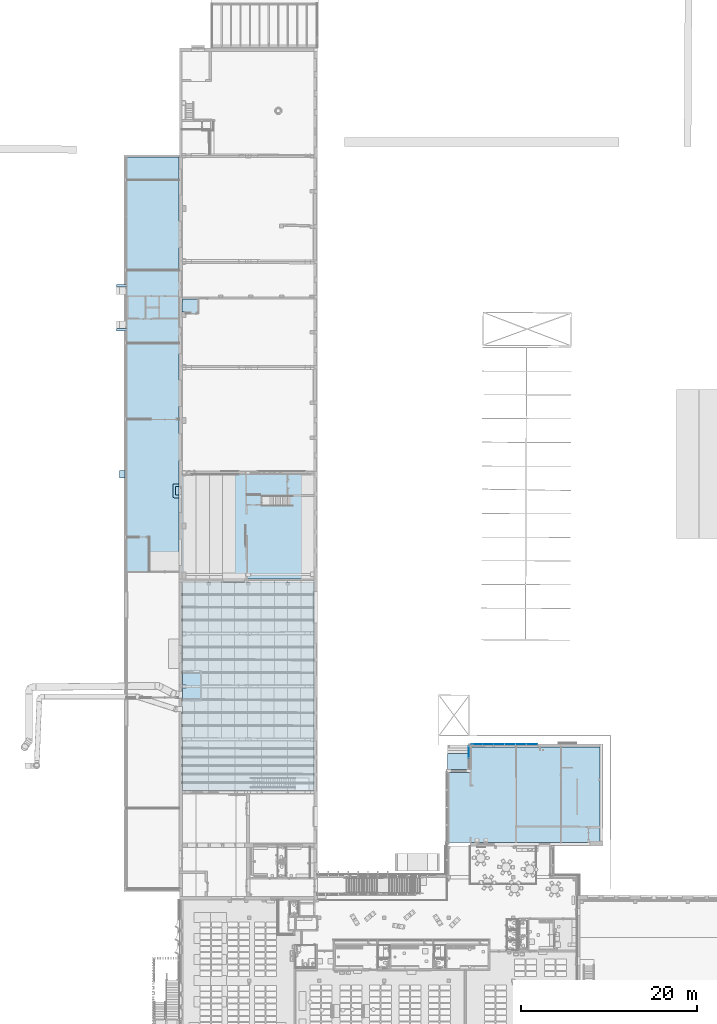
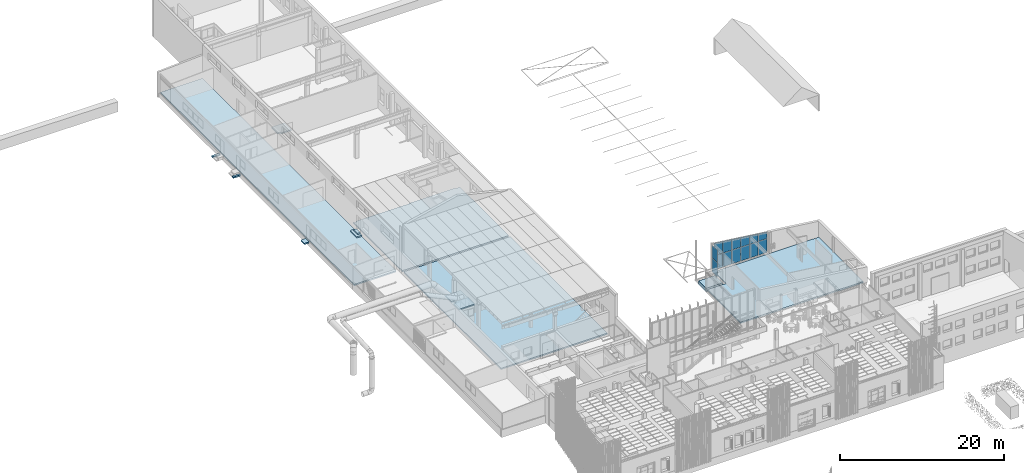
# One storey, part 79 of 301: 14 plates, 12 slabs, 2 elements without a shape of their own.
"""IFC2X3 building model written with IfcOpenShell, lengths in millimetres."""

from ifc_helpers import new_model, entity, si_unit, converted_unit, derived_unit, money_unit, direction, frame, origin_with_axes, place, context, subcontext, project, spatial, faceted_brep, material, type_object, element, aggregate, save


model = new_model("IFC2X3")

# Units and contexts
model_context = context("Model", 3, precision=0.01, world=origin_with_axes(), true_north=direction((0.0, 1.0)))
body_context = subcontext(model_context, "Body", "Model", "MODEL_VIEW")
ifc_project = project(units=[si_unit("LENGTHUNIT", "METRE", prefix="MILLI"), si_unit("AREAUNIT", "SQUARE_METRE"), si_unit("VOLUMEUNIT", "CUBIC_METRE"), converted_unit("PLANEANGLEUNIT", "DEGREE", entity("IfcPlaneAngleMeasure", 0.0174532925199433), si_unit("PLANEANGLEUNIT", "RADIAN"), dimensions=[0, 0, 0, 0, 0, 0, 0]), money_unit("EUR"), converted_unit("TIMEUNIT", "Year", entity("IfcTimeMeasure", 31557600.0), si_unit("TIMEUNIT", "SECOND"), dimensions=[0, 0, 1, 0, 0, 0, 0]), si_unit("MASSUNIT", "GRAM", prefix="KILO"), si_unit("THERMODYNAMICTEMPERATUREUNIT", "DEGREE_CELSIUS"), si_unit("LUMINOUSINTENSITYUNIT", "LUMEN"), si_unit("ENERGYUNIT", "JOULE", prefix="MEGA"), derived_unit("THERMALCONDUCTANCEUNIT", [(si_unit("POWERUNIT", "WATT"), 1), (si_unit("LENGTHUNIT", "METRE"), -1), (si_unit("THERMODYNAMICTEMPERATUREUNIT", "KELVIN"), -1)]), derived_unit("SPECIFICHEATCAPACITYUNIT", [(si_unit("ENERGYUNIT", "JOULE"), 1), (si_unit("MASSUNIT", "GRAM", prefix="KILO"), -1), (si_unit("THERMODYNAMICTEMPERATUREUNIT", "KELVIN"), -1)]), derived_unit("MASSDENSITYUNIT", [(si_unit("MASSUNIT", "GRAM", prefix="KILO"), 1), (si_unit("VOLUMEUNIT", "CUBIC_METRE"), -1)])], contexts=[model_context])

# Site, building, storey
site_placement = place(None, frame((0.0, 0.0, 8650.0), z_axis=(0.0, 0.0, 1.0), x_axis=(1.0, 0.0, 0.0)))
site = spatial("IfcSite", under=ifc_project, at=site_placement, Name="43301:001:0844", CompositionType="ELEMENT")
building_placement = place(site_placement, origin_with_axes())
building = spatial("IfcBuilding", under=site, at=building_placement, Name="Kuressaare Ametikooli tuulikute mehaanikute õppekorpus", CompositionType="ELEMENT")
storey_placement = place(building_placement, origin_with_axes())
storey = spatial("IfcBuildingStorey", under=building, at=storey_placement, Name="1.korrus", CompositionType="ELEMENT", Elevation=0.0)

# Slabs
ifc_material_1 = material(Name="GENEERILINE - KONSTRUKTRIOON")
slab_type_1 = type_object("IfcSlabType", Name="GENEERILINE - KONSTRUKTRIOON 200", PredefinedType="NOTDEFINED")
slab_1_placement = place(storey_placement, frame((118494.5490393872, 32289.65865180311, 0.0), z_axis=(0.0, 0.0, 1.0), x_axis=(1.0, 0.0, 0.0)))
element("IfcSlab", 1, at=slab_1_placement, inside=storey, type_object=slab_type_1, material=ifc_material_1, PredefinedType="NOTDEFINED", context=body_context, shape_type="Brep", body=[
    faceted_brep([(154.4958508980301, 3.053650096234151, 0.0), (0.0, 0.0, 0.0), (0.0, 0.0, -199.9999999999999), (154.4958508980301, 3.053650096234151, -199.9999999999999), (2624.418669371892, 8029.126284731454, 0.0), (0.0, 8029.126284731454, 0.0), (154.4958508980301, 19.16859212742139, 0.0), (17275.90571387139, 19.16859212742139, 0.0), (17275.90571387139, 10914.48736093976, 0.0), (2624.418669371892, 10914.48736093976, 0.0), (0.0, 8029.126284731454, -199.9999999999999), (154.4958508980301, 19.16859212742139, -199.9999999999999), (2624.418669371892, 8029.126284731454, -199.9999999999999), (2624.418669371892, 10914.48736093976, -199.9999999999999), (17275.90571387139, 10914.48736093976, -199.9999999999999), (17275.90571387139, 19.16859212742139, -199.9999999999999)], [[[0, 1, 2, 3]], [[4, 5, 1, 0, 6, 7, 8, 9]], [[1, 5, 10, 2]], [[11, 3, 2, 10, 12, 13, 14, 15]], [[6, 0, 3, 11]], [[5, 4, 12, 10]], [[7, 6, 11, 15]], [[8, 7, 15, 14]], [[9, 8, 14, 13]], [[4, 9, 13, 12]]]),
])
slab_2_placement = place(storey_placement, frame((81991.88862698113, 63168.71535974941, -329.9999826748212), z_axis=(0.0, 0.0, 1.0), x_axis=(1.0, 0.0, 0.0)))
element("IfcSlab", 2, at=slab_2_placement, inside=storey, type_object=slab_type_1, material=ifc_material_1, PredefinedType="NOTDEFINED", context=body_context, shape_type="Brep", body=[
    faceted_brep([(0.0, 0.0, 0.0), (0.0, 0.0, -200.0), (5906.86781985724, 0.0, -200.0), (5906.86781985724, 0.0, 0.0), (0.3106144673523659, 47150.27976489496, 0.0), (0.3106144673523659, 47150.27976489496, -200.0), (5906.86781985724, 47150.23454581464, -200.0), (5906.86781985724, 47150.23454581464, 0.0)], [[[0, 1, 2, 3]], [[4, 5, 1, 0]], [[2, 1, 5, 6]], [[3, 2, 6, 7]], [[4, 0, 3, 7]], [[7, 6, 5, 4]]]),
])
slab_3_placement = place(storey_placement, frame((88258.75644683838, 61938.34411621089, 130.0), z_axis=(0.0, 0.0, 1.0), x_axis=(1.0, 0.0, 0.0)))
element("IfcSlab", 3, at=slab_3_placement, inside=storey, type_object=slab_type_1, material=ifc_material_1, PredefinedType="NOTDEFINED", context=body_context, shape_type="Brep", body=[
    faceted_brep([(0.0, -23692.57245132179, 0.0), (0.0, 0.0, 0.0), (0.0, 0.0, -199.9999999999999), (0.0, -23692.57245132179, -199.9999999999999), (14968.75576019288, -23692.57245132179, 0.0), (14968.75576019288, 0.0, 0.0), (14968.75576019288, 0.0, -199.9999999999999), (14968.75576019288, -23692.57245132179, -199.9999999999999)], [[[0, 1, 2, 3]], [[4, 5, 1, 0]], [[1, 5, 6, 2]], [[7, 3, 2, 6]], [[4, 0, 3, 7]], [[5, 4, 7, 6]]]),
])
slab_4_placement = place(storey_placement, frame((88256.83241099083, 74249.57800842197, 44.94862960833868), z_axis=(0.0, 0.0, 1.0), x_axis=(1.0, 0.0, 0.0)))
element("IfcSlab", 4, at=slab_4_placement, inside=storey, type_object=slab_type_1, material=ifc_material_1, PredefinedType="NOTDEFINED", context=body_context, shape_type="Brep", body=[
    faceted_brep([(7879.182006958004, -44.38538867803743, -200.0000000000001), (7732.86944716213, -43.5611736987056, -200.0000000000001), (7732.86944716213, -43.5611736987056, 0.0), (7879.182006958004, -44.38538867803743, 0.0), (7232.86944716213, -66.75190352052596, -200.0000000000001), (7732.86944716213, -66.75190352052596, -200.0000000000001), (7879.182006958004, 45.61461132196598, -200.0000000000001), (14270.67978226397, 45.61461132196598, -200.0000000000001), (14270.67978226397, -64.38547086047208, -200.0000000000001), (14970.67979604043, -64.38547086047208, -200.0000000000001), (14970.67979604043, -11931.276093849, -200.0000000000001), (1.923508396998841, -11931.276093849, -200.0000000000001), (0.0, 0.0, -200.0000000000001), (2.028198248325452, -0.01142534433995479, -200.0000000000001), (2.028198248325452, -140.0057133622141, -200.0000000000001), (402.0281982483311, -140.0057133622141, -200.0000000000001), (402.0281982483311, -2.264724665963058, -200.0000000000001), (7232.86944716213, -40.74454954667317, -200.0000000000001), (7732.86944716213, -66.75190352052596, 0.0), (7232.86944716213, -66.75190352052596, 0.0), (7232.86944716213, -40.74454954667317, 0.0), (402.0281982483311, -2.264724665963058, 0.0), (402.0281982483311, -140.0057133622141, 0.0), (2.028198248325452, -140.0057133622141, 0.0), (2.028198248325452, -0.01142534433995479, 0.0), (0.0, 0.0, 0.0), (1.923508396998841, -11931.276093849, 0.0), (14970.67979604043, -11931.276093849, 0.0), (14970.67979604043, -64.38547086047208, 0.0), (14270.67978226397, -64.38547086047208, 0.0), (14270.67978226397, 45.61461132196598, 0.0), (7879.182006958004, 45.61461132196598, 0.0)], [[[0, 1, 2, 3]], [[4, 5, 1, 0, 6, 7, 8, 9, 10, 11, 12, 13, 14, 15, 16, 17]], [[5, 18, 2, 1]], [[18, 19, 20, 21, 22, 23, 24, 25, 26, 27, 28, 29, 30, 31, 3, 2]], [[3, 31, 6, 0]], [[4, 19, 18, 5]], [[31, 30, 7, 6]], [[8, 7, 30, 29]], [[8, 29, 28, 9]], [[10, 9, 28, 27]], [[27, 26, 11, 10]], [[26, 25, 12, 11]], [[25, 24, 13, 12]], [[14, 13, 24, 23]], [[14, 23, 22, 15]], [[15, 22, 21, 16]], [[21, 20, 17, 16]], [[4, 17, 20, 19]]]),
])
slab_5_placement = place(storey_placement, frame((80791.58456840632, 95533.95587858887, -543.0000000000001), z_axis=(0.0, 0.0, 1.0), x_axis=(1.0, 0.0, 0.0)))
element("IfcSlab", 5, at=slab_5_placement, inside=storey, type_object=slab_type_1, material=ifc_material_1, PredefinedType="NOTDEFINED", context=body_context, shape_type="Brep", body=[
    faceted_brep([(0.0, 0.0, 0.0), (0.0, 0.0, -199.9999999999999), (1100.5876276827, 0.0, -199.9999999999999), (1100.5876276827, 0.0, 0.0), (0.002002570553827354, 303.9837828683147, 0.0), (0.002002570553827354, 303.9837828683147, -199.9999999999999), (1100.5876276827, 303.9753570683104, -199.9999999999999), (1100.5876276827, 303.9753570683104, 0.0)], [[[0, 1, 2, 3]], [[4, 5, 1, 0]], [[2, 1, 5, 6]], [[3, 2, 6, 7]], [[4, 0, 3, 7]], [[7, 6, 5, 4]]]),
])
slab_6_placement = place(storey_placement, frame((80791.58456840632, 90829.1677255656, -543.0000000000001), z_axis=(0.0, 0.0, 1.0), x_axis=(1.0, 0.0, 0.0)))
element("IfcSlab", 6, at=slab_6_placement, inside=storey, type_object=slab_type_1, material=ifc_material_1, PredefinedType="NOTDEFINED", context=body_context, shape_type="Brep", body=[
    faceted_brep([(0.0, 0.0, 0.0), (0.0, 0.0, -199.9999999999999), (0.002002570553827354, -303.9837828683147, -199.9999999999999), (0.002002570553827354, -303.9837828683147, 0.0), (1100.5876276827, 0.0, 0.0), (1100.5876276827, 0.0, -199.9999999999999), (1100.5876276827, -303.9753570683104, -199.9999999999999), (1100.5876276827, -303.9753570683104, 0.0)], [[[0, 1, 2, 3]], [[4, 5, 1, 0]], [[2, 1, 5, 6]], [[3, 2, 6, 7]], [[4, 0, 3, 7]], [[7, 6, 5, 4]]]),
])
slab_7_placement = place(storey_placement, frame((81113.99645361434, 73790.08330329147, -350.0000000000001), z_axis=(0.0, 0.0, 1.0), x_axis=(1.0, 0.0, 0.0)))
element("IfcSlab", 7, at=slab_7_placement, inside=storey, type_object=slab_type_1, material=ifc_material_1, PredefinedType="NOTDEFINED", context=body_context, shape_type="Brep", body=[
    faceted_brep([(0.0, 0.0, 0.0), (0.0, 0.0, -200.0), (647.8921733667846, 0.0, -200.0), (647.8921733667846, 0.0, 0.0), (0.005669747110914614, 860.6494206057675, 0.0), (0.005669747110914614, 860.6494206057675, -200.0), (647.8921733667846, 860.6444605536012, -200.0), (647.8921733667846, 860.6444605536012, 0.0)], [[[0, 1, 2, 3]], [[4, 5, 1, 0]], [[2, 1, 5, 6]], [[3, 2, 6, 7]], [[4, 0, 3, 7]], [[7, 6, 5, 4]]]),
])

# Curtain wall, plates
curtain_wall_type = type_object("IfcCurtainWallType", Name="Curtain Wall Type", PredefinedType="NOTDEFINED")
curtain_wall_1_placement = place(storey_placement, frame((120847.1885681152, 42644.61724537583, 0.0), z_axis=(0.0, 0.0, 1.0), x_axis=(1.0, 0.0, 0.0)))
curtain_wall_1 = element("IfcCurtainWall", 8, at=curtain_wall_1_placement, inside=storey, type_object=curtain_wall_type)
ifc_material_2 = material(Name="Klaas")
plate_type_1 = type_object("IfcPlateType", Name="Main Panel 1265 x 95 x 20", PredefinedType="NOTDEFINED")
plate_1_placement = place(curtain_wall_1_placement, frame((0.0, 0.0, 1385.000027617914), z_axis=(0.0, 0.0, 1.0), x_axis=(0.0, 1.0, 0.0)))
plate_1 = element("IfcPlate", 9, at=plate_1_placement, type_object=plate_type_1, material=ifc_material_2, context=body_context, shape_type="Brep", body=[
    faceted_brep([(-645.0000092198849, -9.999999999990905, 735.0000084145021), (619.9999916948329, -9.999999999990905, 735.0000084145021), (619.9999916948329, 10.00000000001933, 735.0000084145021), (-645.0000092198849, 10.00000000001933, 735.0000084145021), (-645.0000092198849, -9.999999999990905, 640.0000221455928), (-645.0000092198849, -9.999999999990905, -1350.000019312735), (619.9999916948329, -9.999999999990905, -1350.000019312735), (619.9999916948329, -9.999999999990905, 640.0000221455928), (619.9999916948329, 10.00000000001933, 640.0000221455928), (619.9999916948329, 10.00000000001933, -1350.000019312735), (-645.0000092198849, 10.00000000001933, -1350.000019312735), (-645.0000092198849, 10.00000000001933, 640.0000221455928)], [[[0, 1, 2, 3]], [[0, 4, 5, 6, 7, 1]], [[1, 7, 8, 2]], [[3, 2, 8, 9, 10, 11]], [[4, 0, 3, 11]], [[5, 4, 11, 10]], [[6, 5, 10, 9]], [[7, 6, 9, 8]]]),
])
plate_type_2 = type_object("IfcPlateType", Name="Main Panel 1265 x 1875 x 20", PredefinedType="NOTDEFINED")
plate_2_placement = place(curtain_wall_1_placement, frame((0.0, 0.0, 3090.000041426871), z_axis=(0.0, 0.0, 1.0), x_axis=(0.0, 1.0, 0.0)))
plate_2 = element("IfcPlate", 10, at=plate_2_placement, type_object=plate_type_2, material=ifc_material_2, context=body_context, shape_type="Brep", body=[
    faceted_brep([(-644.9999979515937, -10.00000000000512, 924.9999842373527), (619.9999857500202, -10.00000000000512, 924.9999842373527), (619.9999857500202, 10.00000000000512, 924.9999842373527), (-644.9999979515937, 10.00000000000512, 924.9999842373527), (-644.9999979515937, -10.00000000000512, -949.9999985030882), (619.9999857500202, -10.00000000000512, -949.9999985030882), (619.9999857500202, 10.00000000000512, -949.9999985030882), (-644.9999979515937, 10.00000000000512, -949.9999985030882)], [[[0, 1, 2, 3]], [[0, 4, 5, 1]], [[1, 5, 6, 2]], [[3, 2, 6, 7]], [[4, 0, 3, 7]], [[5, 4, 7, 6]]]),
])
aggregate(curtain_wall_1, [plate_1, plate_2])

# Slabs
slab_type_2 = type_object("IfcSlabType", Name="GENEERILINE - KONSTRUKTRIOON 520", PredefinedType="NOTDEFINED")
slab_8_placement = place(storey_placement, frame((118448.967590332, 40646.6348696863, 0.0), z_axis=(0.0, 0.0, 1.0), x_axis=(1.0, 0.0, 0.0)))
element("IfcSlab", 11, at=slab_8_placement, inside=storey, type_object=slab_type_2, material=ifc_material_1, PredefinedType="NOTDEFINED", context=body_context, shape_type="Brep", body=[
    faceted_brep([(0.0, 0.0, 0.0), (0.0, 0.0, -520.0), (2360.0, 0.0, -520.0), (2360.0, 0.0, 0.0), (0.0, 1816.208181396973, 0.0), (0.0, 1816.208181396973, -520.0), (2360.0, 1816.208181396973, -520.0), (2360.0, 1816.208181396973, 0.0)], [[[0, 1, 2, 3]], [[4, 5, 1, 0]], [[2, 1, 5, 6]], [[3, 2, 6, 7]], [[4, 0, 3, 7]], [[7, 6, 5, 4]]]),
])
slab_type_3 = type_object("IfcSlabType", Name="GENEERILINE - KONSTRUKTRIOON 175", PredefinedType="NOTDEFINED")
slab_9_placement = place(storey_placement, frame((90115.75412750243, 94203.96082227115, 2065.0), z_axis=(0.0, 0.0, 1.0), x_axis=(1.0, 0.0, 0.0)))
element("IfcSlab", 12, at=slab_9_placement, inside=storey, type_object=slab_type_3, material=ifc_material_1, PredefinedType="NOTDEFINED", context=body_context, shape_type="Brep", body=[
    faceted_brep([(0.0, 0.0, 0.0), (0.0, 0.0, -175.0000000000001), (-1856.997680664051, 0.0, -175.0000000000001), (-1856.997680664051, 0.0, 0.0), (0.0, -1698.185370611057, 0.0), (0.0, -1698.185370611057, -175.0000000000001), (-1457.245412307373, -1698.185370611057, -175.0000000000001), (-1457.245412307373, -1481.614958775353, -175.0000000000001), (-1857.245483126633, -1481.614958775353, -175.0000000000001), (-1857.245483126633, -1481.614958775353, 0.0), (-1457.245412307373, -1481.614958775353, 0.0), (-1457.245412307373, -1698.185370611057, 0.0)], [[[0, 1, 2, 3]], [[4, 5, 1, 0]], [[2, 1, 5, 6, 7, 8]], [[3, 2, 8, 9]], [[4, 0, 3, 9, 10, 11]], [[11, 6, 5, 4]], [[10, 7, 6, 11]], [[9, 8, 7, 10]]]),
])
slab_10_placement = place(storey_placement, frame((88258.75644683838, 48450.46013715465, 2735.0), z_axis=(0.0, 0.0, 1.0), x_axis=(1.0, 0.0, 0.0)))
element("IfcSlab", 13, at=slab_10_placement, inside=storey, type_object=slab_type_3, material=ifc_material_1, PredefinedType="NOTDEFINED", context=body_context, shape_type="Brep", body=[
    faceted_brep([(420.0000000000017, 1834.721436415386, 0.0), (420.0000000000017, 1424.721436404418, 0.0), (0.0, 1424.721436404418, 0.0), (0.0, 0.0, 0.0), (2172.000122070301, 0.0, 0.0), (2172.000122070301, 3398.813754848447, 0.0), (0.0, 3401.572944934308, 0.0), (0.0, 1834.721436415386, 0.0), (420.0000000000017, 1424.721436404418, -174.9999999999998), (420.0000000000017, 1834.721436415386, -174.9999999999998), (0.0, 1424.721436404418, -174.9999999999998), (0.0, 0.0, -174.9999999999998), (2172.000122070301, 0.0, -174.9999999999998), (2172.000122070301, 3398.813754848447, -174.9999999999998), (0.0, 3401.572944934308, -174.9999999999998), (0.0, 1834.721436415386, -174.9999999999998)], [[[0, 1, 2, 3, 4, 5, 6, 7]], [[8, 1, 0, 9]], [[10, 2, 1, 8]], [[3, 2, 10, 11]], [[4, 3, 11, 12]], [[5, 4, 12, 13]], [[6, 5, 13, 14]], [[14, 15, 7, 6]], [[9, 0, 7, 15]], [[8, 9, 15, 14, 13, 12, 11, 10]]]),
])

# Curtain wall, plates
curtain_wall_2_placement = place(storey_placement, frame((123006.726034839, 43517.8284534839, -3.991420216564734e-05), z_axis=(0.0, 0.0, 1.0), x_axis=(1.0, 0.0, 0.0)))
curtain_wall_2 = element("IfcCurtainWall", 14, at=curtain_wall_2_placement, inside=storey, type_object=curtain_wall_type, Name="KF-XX")
plate_type_3 = type_object("IfcPlateType", Name="Main Panel 828 x 2055 x 20", PredefinedType="NOTDEFINED")
plate_3_placement = place(curtain_wall_2_placement, frame((0.0, 0.0, 1050.000019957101), z_axis=(0.0, 0.0, 1.0), x_axis=(1.0, 0.0, 0.0)))
plate_3 = element("IfcPlate", 15, at=plate_3_placement, type_object=plate_type_3, material=ifc_material_2, context=body_context, shape_type="Brep", body=[
    faceted_brep([(-542.1759811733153, -9.99999999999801, 1040.000010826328), (-142.8713414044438, -9.99999999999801, 1040.000010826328), (-142.8713414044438, 9.99999999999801, 1040.000010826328), (-542.1759811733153, 9.99999999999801, 1040.000010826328), (-542.1759811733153, -9.99999999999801, -1015.000019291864), (-142.8713414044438, -9.99999999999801, -1015.000019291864), (685.0473094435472, -9.99999999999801, -1015.000019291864), (685.0473094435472, -9.99999999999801, 1040.000010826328), (685.0473094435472, 9.99999999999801, 1040.000010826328), (685.0473094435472, 9.99999999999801, -1015.000019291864), (-142.8713414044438, 9.99999999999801, -1015.000019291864), (-542.1759811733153, 9.99999999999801, -1015.000019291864)], [[[0, 1, 2, 3]], [[0, 4, 5, 6, 7, 1]], [[1, 7, 8, 2]], [[3, 2, 8, 9, 10, 11]], [[4, 0, 3, 11]], [[5, 4, 11, 10]], [[6, 5, 10, 9]], [[7, 6, 9, 8]]]),
])
plate_type_4 = type_object("IfcPlateType", Name="Main Panel 77 x 1134 x 20", PredefinedType="NOTDEFINED")
plate_4_placement = place(curtain_wall_2_placement, frame((3996.928928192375, 0.0, 2716.387965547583), z_axis=(0.0, 0.0, 1.0), x_axis=(1.0, 0.0, 0.0)))
plate_4 = element("IfcPlate", 16, at=plate_4_placement, type_object=plate_type_4, material=ifc_material_2, context=body_context, shape_type="Brep", body=[
    faceted_brep([(-797.8381711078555, -9.99999999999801, 679.4879215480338), (355.9170171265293, -9.99999999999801, 537.2421232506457), (355.9170171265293, 9.99999999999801, 537.2421232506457), (-797.8381711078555, 9.99999999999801, 679.4879215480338), (-797.8381711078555, -9.99999999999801, -606.3879355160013), (360.1997292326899, -9.99999999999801, -606.3879355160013), (437.6384330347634, -9.99999999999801, -606.3879355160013), (437.6384528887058, -9.99999999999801, 527.1667278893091), (437.6384528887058, 9.99999999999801, 527.1667278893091), (437.6384330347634, 9.99999999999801, -606.3879355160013), (360.1997292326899, 9.99999999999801, -606.3879355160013), (-797.8381711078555, 9.99999999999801, -606.3879355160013)], [[[0, 1, 2, 3]], [[0, 4, 5, 6, 7, 1]], [[1, 7, 8, 2]], [[3, 2, 8, 9, 10, 11]], [[4, 0, 3, 11]], [[5, 4, 11, 10]], [[6, 5, 10, 9]], [[7, 6, 9, 8]]]),
])
plate_type_5 = type_object("IfcPlateType", Name="Main Panel 1220 x 981 x 20", PredefinedType="NOTDEFINED")
plate_5_placement = place(curtain_wall_2_placement, frame((5077.104751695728, 0.0, 2649.800834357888), z_axis=(0.0, 0.0, 1.0), x_axis=(1.0, 0.0, 0.0)))
plate_5 = element("IfcPlate", 17, at=plate_5_placement, type_object=plate_type_5, material=ifc_material_2, context=body_context, shape_type="Brep", body=[
    faceted_brep([(-622.5373854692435, -9.99999999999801, 591.2880719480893), (597.5374066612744, -9.99999999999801, 440.8657283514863), (597.5374066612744, 9.99999999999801, 440.8657283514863), (-622.5373854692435, 9.99999999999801, 591.2880719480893), (-622.5373854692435, -9.99999999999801, -539.8007942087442), (597.537368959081, -9.99999999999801, -539.8007942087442), (597.537368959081, 9.99999999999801, -539.8007942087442), (-622.5373854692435, 9.99999999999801, -539.8007942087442)], [[[0, 1, 2, 3]], [[0, 4, 5, 1]], [[1, 5, 6, 2]], [[3, 2, 6, 7]], [[4, 0, 3, 7]], [[5, 4, 7, 6]]]),
])
plate_type_6 = type_object("IfcPlateType", Name="Main Panel 579 x 2055 x 20", PredefinedType="NOTDEFINED")
plate_6_placement = place(curtain_wall_2_placement, frame((1332.629597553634, 0.0, 1050.000019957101), z_axis=(0.0, 0.0, 1.0), x_axis=(1.0, 0.0, 0.0)))
plate_6 = element("IfcPlate", 18, at=plate_6_placement, type_object=plate_type_6, material=ifc_material_2, context=body_context, shape_type="Brep", body=[
    faceted_brep([(-627.5822830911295, -9.99999999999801, 1040.000010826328), (24.49907183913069, -9.99999999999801, 1040.000010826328), (24.49907183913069, 9.99999999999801, 1040.000010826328), (-627.5822830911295, 9.99999999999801, 1040.000010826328), (-627.5822830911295, -9.99999999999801, -1015.000019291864), (24.49907183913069, -9.99999999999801, -1015.000019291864), (603.0832104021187, -9.99999999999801, -1015.000019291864), (603.0832104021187, -9.99999999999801, 1040.000010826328), (603.0832104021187, 9.99999999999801, 1040.000010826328), (603.0832104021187, 9.99999999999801, -1015.000019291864), (24.49907183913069, 9.99999999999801, -1015.000019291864), (-627.5822830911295, 9.99999999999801, -1015.000019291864)], [[[0, 1, 2, 3]], [[0, 4, 5, 6, 7, 1]], [[1, 7, 8, 2]], [[3, 2, 8, 9, 10, 11]], [[4, 0, 3, 11]], [[5, 4, 11, 10]], [[6, 5, 10, 9]], [[7, 6, 9, 8]]]),
])
plate_type_7 = type_object("IfcPlateType", Name="Main Panel 1081 x 2055 x 20", PredefinedType="NOTDEFINED")
plate_7_placement = place(curtain_wall_2_placement, frame((-1338.507010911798, 0.0, 1050.000019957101), z_axis=(0.0, 0.0, 1.0), x_axis=(1.0, 0.0, 0.0)))
plate_7 = element("IfcPlate", 19, at=plate_7_placement, type_object=plate_type_7, material=ifc_material_2, context=body_context, shape_type="Brep", body=[
    faceted_brep([(-446.9667180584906, -9.99999999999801, 1040.000010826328), (-304.3643398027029, -9.99999999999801, 1040.000010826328), (-304.3643398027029, 9.99999999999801, 1040.000010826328), (-446.9667180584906, 9.99999999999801, 1040.000010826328), (-446.9667180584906, -9.99999999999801, -1015.000019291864), (-304.3643398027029, -9.99999999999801, -1015.000019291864), (776.3310262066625, -9.99999999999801, -1015.000019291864), (776.3310262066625, -9.99999999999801, 1040.000010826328), (776.3310262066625, 9.99999999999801, 1040.000010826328), (776.3310262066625, 9.99999999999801, -1015.000019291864), (-304.3643398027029, 9.99999999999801, -1015.000019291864), (-446.9667180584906, 9.99999999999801, -1015.000019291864)], [[[0, 1, 2, 3]], [[0, 4, 5, 6, 7, 1]], [[1, 7, 8, 2]], [[3, 2, 8, 9, 10, 11]], [[4, 0, 3, 11]], [[5, 4, 11, 10]], [[6, 5, 10, 9]], [[7, 6, 9, 8]]]),
])
plate_type_8 = type_object("IfcPlateType", Name="Main Panel 1081 x 1750 x 20", PredefinedType="NOTDEFINED")
plate_8_placement = place(curtain_wall_2_placement, frame((-1338.507009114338, 0.0, 3045.289321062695), z_axis=(0.0, 0.0, 1.0), x_axis=(1.0, 0.0, 0.0)))
plate_8 = element("IfcPlate", 20, at=plate_8_placement, type_object=plate_type_8, material=ifc_material_2, context=body_context, shape_type="Brep", body=[
    faceted_brep([(-446.9666929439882, -9.99999999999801, 965.1305459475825), (-308.6470413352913, -9.99999999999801, 948.0771703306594), (-308.6470413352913, 9.99999999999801, 948.0771703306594), (-446.9666929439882, 9.99999999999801, 965.1305459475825), (-446.9666929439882, -9.99999999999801, -935.289272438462), (-304.3643452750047, -9.99999999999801, -935.289272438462), (776.3310356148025, -9.99999999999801, -935.289272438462), (776.3310356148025, -9.99999999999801, 814.3109125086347), (776.3310356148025, 9.99999999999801, 814.3109125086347), (776.3310356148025, 9.99999999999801, -935.289272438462), (-304.3643452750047, 9.99999999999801, -935.289272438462), (-446.9666929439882, 9.99999999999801, -935.289272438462)], [[[0, 1, 2, 3]], [[0, 4, 5, 6, 7, 1]], [[1, 7, 8, 2]], [[3, 2, 8, 9, 10, 11]], [[4, 0, 3, 11]], [[5, 4, 11, 10]], [[6, 5, 10, 9]], [[7, 6, 9, 8]]]),
])
plate_type_9 = type_object("IfcPlateType", Name="Main Panel 1220 x 2055 x 20", PredefinedType="NOTDEFINED")
plate_9_placement = place(curtain_wall_2_placement, frame((5077.104742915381, 0.0, 1050.000019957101), z_axis=(0.0, 0.0, 1.0), x_axis=(1.0, 0.0, 0.0)))
plate_9 = element("IfcPlate", 21, at=plate_9_placement, type_object=plate_type_9, material=ifc_material_2, context=body_context, shape_type="Brep", body=[
    faceted_brep([(-622.5373688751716, -9.99999999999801, 1040.000010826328), (597.5373762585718, -9.99999999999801, 1040.000010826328), (597.5373762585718, 9.99999999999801, 1040.000010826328), (-622.5373688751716, 9.99999999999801, 1040.000010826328), (-622.5373688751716, -9.99999999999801, -1015.000019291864), (597.5373762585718, -9.99999999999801, -1015.000019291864), (597.5373762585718, 9.99999999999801, -1015.000019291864), (-622.5373688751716, 9.99999999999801, -1015.000019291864)], [[[0, 1, 2, 3]], [[0, 4, 5, 1]], [[1, 5, 6, 2]], [[3, 2, 6, 7]], [[4, 0, 3, 7]], [[5, 4, 7, 6]]]),
])
plate_type_10 = type_object("IfcPlateType", Name="Main Panel 322 x 2055 x 20", PredefinedType="NOTDEFINED")
plate_10_placement = place(curtain_wall_2_placement, frame((2663.977411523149, 0.0, 1050.000019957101), z_axis=(0.0, 0.0, 1.0), x_axis=(1.0, 0.0, 0.0)))
plate_10 = element("IfcPlate", 22, at=plate_10_placement, type_object=plate_type_10, material=ifc_material_2, context=body_context, shape_type="Brep", body=[
    faceted_brep([(-708.2646070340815, -9.99999999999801, 1040.000010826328), (193.1512601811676, -9.99999999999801, 1040.000010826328), (193.1512601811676, 9.99999999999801, 1040.000010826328), (-708.2646070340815, 9.99999999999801, 1040.000010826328), (-708.2646070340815, -9.99999999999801, -1015.000019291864), (193.1512601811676, -9.99999999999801, -1015.000019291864), (515.1133398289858, -9.99999999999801, -1015.000019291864), (515.1133398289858, -9.99999999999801, 1040.000010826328), (515.1133398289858, 9.99999999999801, 1040.000010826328), (515.1133398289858, 9.99999999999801, -1015.000019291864), (193.1512601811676, 9.99999999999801, -1015.000019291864), (-708.2646070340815, 9.99999999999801, -1015.000019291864)], [[[0, 1, 2, 3]], [[0, 4, 5, 6, 7, 1]], [[1, 7, 8, 2]], [[3, 2, 8, 9, 10, 11]], [[4, 0, 3, 11]], [[5, 4, 11, 10]], [[6, 5, 10, 9]], [[7, 6, 9, 8]]]),
])
plate_type_11 = type_object("IfcPlateType", Name="Main Panel 828 x 1596 x 20", PredefinedType="NOTDEFINED")
plate_11_placement = place(curtain_wall_2_placement, frame((2.551630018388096e-06, 0.0, 2962.77747461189), z_axis=(0.0, 0.0, 1.0), x_axis=(1.0, 0.0, 0.0)))
plate_11 = element("IfcPlate", 23, at=plate_11_placement, type_object=plate_type_11, material=ifc_material_2, context=body_context, shape_type="Brep", body=[
    faceted_brep([(-542.1759688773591, -9.99999999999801, 894.3569943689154), (-147.1540369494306, -9.99999999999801, 845.6549840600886), (-147.1540369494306, 9.99999999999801, 845.6549840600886), (-542.1759688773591, 9.99999999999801, 894.3569943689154), (-542.1759688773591, -9.99999999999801, -852.7774417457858), (-142.8713458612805, -9.99999999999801, -852.7774417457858), (685.0473275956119, -9.99999999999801, -852.7774417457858), (685.0473275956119, -9.99999999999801, 743.053372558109), (685.0473275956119, 9.99999999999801, 743.053372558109), (685.0473275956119, 9.99999999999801, -852.7774417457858), (-142.8713458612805, 9.99999999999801, -852.7774417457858), (-542.1759688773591, 9.99999999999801, -852.7774417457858)], [[[0, 1, 2, 3]], [[0, 4, 5, 6, 7, 1]], [[1, 7, 8, 2]], [[3, 2, 8, 9, 10, 11]], [[4, 0, 3, 11]], [[5, 4, 11, 10]], [[6, 5, 10, 9]], [[7, 6, 9, 8]]]),
])
plate_type_12 = type_object("IfcPlateType", Name="Main Panel 579 x 1442 x 20", PredefinedType="NOTDEFINED")
plate_12_placement = place(curtain_wall_2_placement, frame((1332.629597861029, 0.0, 2880.627913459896), z_axis=(0.0, 0.0, 1.0), x_axis=(1.0, 0.0, 0.0)))
plate_12 = element("IfcPlate", 24, at=plate_12_placement, type_object=plate_type_12, material=ifc_material_2, context=body_context, shape_type="Brep", body=[
    faceted_brep([(-627.5822861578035, -9.99999999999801, 822.7371222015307), (20.21636425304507, -9.99999999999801, 742.8704124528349), (20.21636425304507, 9.99999999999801, 742.8704124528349), (-627.5822861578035, 9.99999999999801, 822.7371222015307), (-627.5822861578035, -9.99999999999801, -770.627878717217), (24.49907070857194, -9.99999999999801, -770.627878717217), (603.0832243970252, -9.99999999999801, -770.627878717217), (603.0832243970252, -9.99999999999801, 671.0090940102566), (603.0832243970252, 9.99999999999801, 671.0090940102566), (603.0832243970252, 9.99999999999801, -770.627878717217), (24.49907070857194, 9.99999999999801, -770.627878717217), (-627.5822861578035, 9.99999999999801, -770.627878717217)], [[[0, 1, 2, 3]], [[0, 4, 5, 6, 7, 1]], [[1, 7, 8, 2]], [[3, 2, 8, 9, 10, 11]], [[4, 0, 3, 11]], [[5, 4, 11, 10]], [[6, 5, 10, 9]], [[7, 6, 9, 8]]]),
])
plate_type_13 = type_object("IfcPlateType", Name="Main Panel 322 x 1288 x 20", PredefinedType="NOTDEFINED")
plate_13_placement = place(curtain_wall_2_placement, frame((2663.977410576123, 0.0, 2798.557363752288), z_axis=(0.0, 0.0, 1.0), x_axis=(1.0, 0.0, 0.0)))
plate_13 = element("IfcPlate", 25, at=plate_13_placement, type_object=plate_type_13, material=ifc_material_2, context=body_context, shape_type="Brep", body=[
    faceted_brep([(-708.2645895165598, -9.99999999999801, 750.6138445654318), (188.8685481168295, -9.99999999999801, 640.0068262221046), (188.8685481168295, 9.99999999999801, 640.0068262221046), (-708.2645895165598, 9.99999999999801, 750.6138445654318), (-708.2645895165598, -9.99999999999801, -688.5573148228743), (193.1512523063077, -9.99999999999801, -688.5573148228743), (515.113340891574, -9.99999999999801, -688.5573148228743), (515.113340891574, -9.99999999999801, 599.784301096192), (515.113340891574, 9.99999999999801, 599.784301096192), (515.113340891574, 9.99999999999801, -688.5573148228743), (193.1512523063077, 9.99999999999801, -688.5573148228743), (-708.2645895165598, 9.99999999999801, -688.5573148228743)], [[[0, 1, 2, 3]], [[0, 4, 5, 6, 7, 1]], [[1, 7, 8, 2]], [[3, 2, 8, 9, 10, 11]], [[4, 0, 3, 11]], [[5, 4, 11, 10]], [[6, 5, 10, 9]], [[7, 6, 9, 8]]]),
])
plate_type_14 = type_object("IfcPlateType", Name="Main Panel 77 x 2055 x 20", PredefinedType="NOTDEFINED")
plate_14_placement = place(curtain_wall_2_placement, frame((3996.92892782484, 0.0, 1050.000019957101), z_axis=(0.0, 0.0, 1.0), x_axis=(1.0, 0.0, 0.0)))
plate_14 = element("IfcPlate", 26, at=plate_14_placement, type_object=plate_type_14, material=ifc_material_2, context=body_context, shape_type="Brep", body=[
    faceted_brep([(-797.8381563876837, -9.99999999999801, 1040.000010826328), (360.1997384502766, -9.99999999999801, 1040.000010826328), (360.1997384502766, 9.99999999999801, 1040.000010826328), (-797.8381563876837, 9.99999999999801, 1040.000010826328), (-797.8381563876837, -9.99999999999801, -1015.000019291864), (360.1997384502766, -9.99999999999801, -1015.000019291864), (437.6384290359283, -9.99999999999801, -1015.000019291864), (437.6384290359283, -9.99999999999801, 1040.000010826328), (437.6384290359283, 9.99999999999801, 1040.000010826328), (437.6384290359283, 9.99999999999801, -1015.000019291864), (360.1997384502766, 9.99999999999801, -1015.000019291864), (-797.8381563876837, 9.99999999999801, -1015.000019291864)], [[[0, 1, 2, 3]], [[0, 4, 5, 6, 7, 1]], [[1, 7, 8, 2]], [[3, 2, 8, 9, 10, 11]], [[4, 0, 3, 11]], [[5, 4, 11, 10]], [[6, 5, 10, 9]], [[7, 6, 9, 8]]]),
])
aggregate(curtain_wall_2, [plate_3, plate_4, plate_5, plate_6, plate_7, plate_8, plate_9, plate_10, plate_11, plate_12, plate_13, plate_14])

# Slabs
slab_type_4 = type_object("IfcSlabType", Name="GENEERILINE - KONSTRUKTRIOON 180", PredefinedType="NOTDEFINED")
slab_11_placement = place(storey_placement, frame((87186.83719635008, 71563.26293945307, -330.0), z_axis=(0.0, 0.0, 1.0), x_axis=(1.0, 0.0, 0.0)))
element("IfcSlab", 27, at=slab_11_placement, inside=storey, type_object=slab_type_4, material=ifc_material_1, PredefinedType="NOTDEFINED", context=body_context, shape_type="Brep", body=[
    faceted_brep([(0.0, 0.0, 180.0), (0.0, 0.0, 0.0), (711.9192504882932, -18.58238220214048, 0.0), (711.9192504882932, -18.58238220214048, 180.0), (11.81158426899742, 1549.923353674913, 180.0), (11.81158426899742, 1549.923353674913, 0.0), (711.9192504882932, 1550.328799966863, 0.0), (711.9192504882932, 1550.328799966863, 180.0)], [[[0, 1, 2, 3]], [[4, 5, 1, 0]], [[2, 1, 5, 6]], [[3, 2, 6, 7]], [[4, 0, 3, 7]], [[7, 6, 5, 4]]]),
])
slab_type_5 = type_object("IfcSlabType", Name="GENEERILINE - KONSTRUKTRIOON 195", PredefinedType="NOTDEFINED")
slab_12_placement = place(storey_placement, frame((87492.61809006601, 71897.72653695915, -150.0), z_axis=(0.0, 0.0, 1.0), x_axis=(1.0, 0.0, 0.0)))
element("IfcSlab", 28, at=slab_12_placement, inside=storey, type_object=slab_type_5, material=ifc_material_1, PredefinedType="NOTDEFINED", context=body_context, shape_type="Brep", body=[
    faceted_brep([(0.0, 0.0, 195.0), (0.0, 0.0, 0.0), (406.1383567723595, -2.198125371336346, 0.0), (406.1383567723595, -2.198125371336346, 195.0), (4.962840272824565, 916.9630720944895, 195.0), (4.962840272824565, 916.9630720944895, 0.0), (406.1383567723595, 916.4381035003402, 0.0), (406.1383567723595, 916.4381035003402, 195.0)], [[[0, 1, 2, 3]], [[4, 5, 1, 0]], [[2, 1, 5, 6]], [[3, 2, 6, 7]], [[4, 0, 3, 7]], [[7, 6, 5, 4]]]),
])

save(model, "model.ifc")
